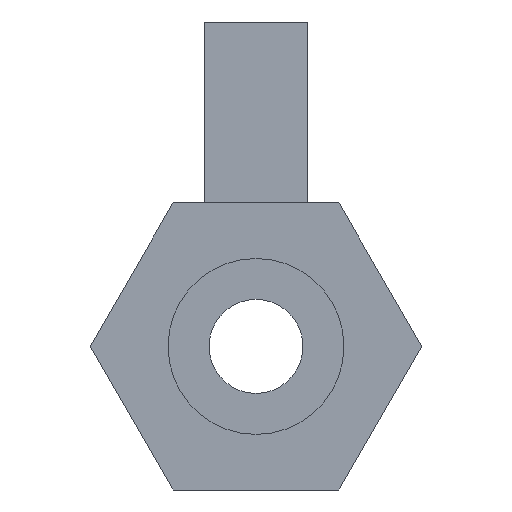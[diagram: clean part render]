
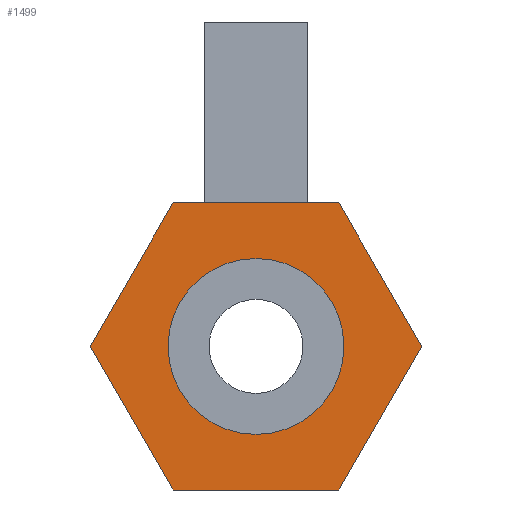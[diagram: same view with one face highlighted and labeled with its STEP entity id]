
A CAD part, left-side view. The second image highlights one B-rep face of the part: STEP entity #1499.
In plain terms, the highlighted planar face has unit normal (-1, 0, 0).
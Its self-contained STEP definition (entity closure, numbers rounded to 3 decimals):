
#523 = PLANE('',#524);
#524 = AXIS2_PLACEMENT_3D('',#525,#526,#527);
#525 = CARTESIAN_POINT('',(0.,0.,0.474));
#526 = DIRECTION('',(0.,0.,1.));
#527 = DIRECTION('',(0.,1.,0.));
#913 = CYLINDRICAL_SURFACE('',#914,0.29);
#914 = AXIS2_PLACEMENT_3D('',#915,#916,#917);
#915 = CARTESIAN_POINT('',(-1.7,0.,0.)
  );
#916 = DIRECTION('',(1.,0.,0.));
#917 = DIRECTION('',(0.,-1.,0.));
#938 = VERTEX_POINT('',#939);
#939 = CARTESIAN_POINT('',(-1.7,-0.29,0.));
#959 = EDGE_CURVE('',#938,#938,#960,.T.);
#960 = SURFACE_CURVE('',#961,(#966,#973),.PCURVE_S1.);
#961 = CIRCLE('',#962,0.29);
#962 = AXIS2_PLACEMENT_3D('',#963,#964,#965);
#963 = CARTESIAN_POINT('',(-1.7,0.,0.)
  );
#964 = DIRECTION('',(1.,0.,0.));
#965 = DIRECTION('',(0.,-1.,0.));
#966 = PCURVE('',#913,#967);
#967 = DEFINITIONAL_REPRESENTATION('',(#968),#972);
#968 = LINE('',#969,#970);
#969 = CARTESIAN_POINT('',(0.,0.));
#970 = VECTOR('',#971,1.);
#971 = DIRECTION('',(1.,0.));
#972 = ( GEOMETRIC_REPRESENTATION_CONTEXT(2) 
PARAMETRIC_REPRESENTATION_CONTEXT() REPRESENTATION_CONTEXT('2D SPACE',''
  ) );
#973 = PCURVE('',#974,#979);
#974 = PLANE('',#975);
#975 = AXIS2_PLACEMENT_3D('',#976,#977,#978);
#976 = CARTESIAN_POINT('',(-1.7,0.,0.)
  );
#977 = DIRECTION('',(1.,0.,0.));
#978 = DIRECTION('',(0.,0.,-1.));
#979 = DEFINITIONAL_REPRESENTATION('',(#980),#984);
#980 = CIRCLE('',#981,0.29);
#981 = AXIS2_PLACEMENT_2D('',#982,#983);
#982 = CARTESIAN_POINT('',(0.,0.));
#983 = DIRECTION('',(0.,-1.));
#984 = ( GEOMETRIC_REPRESENTATION_CONTEXT(2) 
PARAMETRIC_REPRESENTATION_CONTEXT() REPRESENTATION_CONTEXT('2D SPACE',''
  ) );
#1046 = EDGE_CURVE('',#1047,#1049,#1051,.T.);
#1047 = VERTEX_POINT('',#1048);
#1048 = CARTESIAN_POINT('',(-1.7,-0.273,-0.474));
#1049 = VERTEX_POINT('',#1050);
#1050 = CARTESIAN_POINT('',(-1.7,0.273,-0.474));
#1051 = SURFACE_CURVE('',#1052,(#1056,#1068),.PCURVE_S1.);
#1052 = LINE('',#1053,#1054);
#1053 = CARTESIAN_POINT('',(-1.7,0.273,-0.474));
#1054 = VECTOR('',#1055,1.);
#1055 = DIRECTION('',(0.,1.,0.));
#1056 = PCURVE('',#1057,#1062);
#1057 = PLANE('',#1058);
#1058 = AXIS2_PLACEMENT_3D('',#1059,#1060,#1061);
#1059 = CARTESIAN_POINT('',(0.,0.,-0.474));
#1060 = DIRECTION('',(0.,0.,-1.));
#1061 = DIRECTION('',(0.,-1.,0.));
#1062 = DEFINITIONAL_REPRESENTATION('',(#1063),#1067);
#1063 = LINE('',#1064,#1065);
#1064 = CARTESIAN_POINT('',(-0.273,1.7));
#1065 = VECTOR('',#1066,1.);
#1066 = DIRECTION('',(-1.,-0.));
#1067 = ( GEOMETRIC_REPRESENTATION_CONTEXT(2) 
PARAMETRIC_REPRESENTATION_CONTEXT() REPRESENTATION_CONTEXT('2D SPACE',''
  ) );
#1068 = PCURVE('',#974,#1069);
#1069 = DEFINITIONAL_REPRESENTATION('',(#1070),#1074);
#1070 = LINE('',#1071,#1072);
#1071 = CARTESIAN_POINT('',(0.474,0.273));
#1072 = VECTOR('',#1073,1.);
#1073 = DIRECTION('',(0.,1.));
#1074 = ( GEOMETRIC_REPRESENTATION_CONTEXT(2) 
PARAMETRIC_REPRESENTATION_CONTEXT() REPRESENTATION_CONTEXT('2D SPACE',''
  ) );
#1092 = PLANE('',#1093);
#1093 = AXIS2_PLACEMENT_3D('',#1094,#1095,#1096);
#1094 = CARTESIAN_POINT('',(0.,0.41,-0.237));
#1095 = DIRECTION('',(0.,0.866,-0.5));
#1096 = DIRECTION('',(0.,-0.5,-0.866));
#1141 = PLANE('',#1142);
#1142 = AXIS2_PLACEMENT_3D('',#1143,#1144,#1145);
#1143 = CARTESIAN_POINT('',(0.,-0.41,-0.237));
#1144 = DIRECTION('',(0.,-0.866,-0.5));
#1145 = DIRECTION('',(0.,-0.5,0.866));
#1156 = EDGE_CURVE('',#1049,#1157,#1159,.T.);
#1157 = VERTEX_POINT('',#1158);
#1158 = CARTESIAN_POINT('',(-1.7,0.547,0.));
#1159 = SURFACE_CURVE('',#1160,(#1164,#1171),.PCURVE_S1.);
#1160 = LINE('',#1161,#1162);
#1161 = CARTESIAN_POINT('',(-1.7,0.547,0.));
#1162 = VECTOR('',#1163,1.);
#1163 = DIRECTION('',(0.,0.5,0.866));
#1164 = PCURVE('',#1092,#1165);
#1165 = DEFINITIONAL_REPRESENTATION('',(#1166),#1170);
#1166 = LINE('',#1167,#1168);
#1167 = CARTESIAN_POINT('',(-0.273,1.7));
#1168 = VECTOR('',#1169,1.);
#1169 = DIRECTION('',(-1.,0.));
#1170 = ( GEOMETRIC_REPRESENTATION_CONTEXT(2) 
PARAMETRIC_REPRESENTATION_CONTEXT() REPRESENTATION_CONTEXT('2D SPACE',''
  ) );
#1171 = PCURVE('',#974,#1172);
#1172 = DEFINITIONAL_REPRESENTATION('',(#1173),#1177);
#1173 = LINE('',#1174,#1175);
#1174 = CARTESIAN_POINT('',(0.,0.547));
#1175 = VECTOR('',#1176,1.);
#1176 = DIRECTION('',(-0.866,0.5));
#1177 = ( GEOMETRIC_REPRESENTATION_CONTEXT(2) 
PARAMETRIC_REPRESENTATION_CONTEXT() REPRESENTATION_CONTEXT('2D SPACE',''
  ) );
#1195 = PLANE('',#1196);
#1196 = AXIS2_PLACEMENT_3D('',#1197,#1198,#1199);
#1197 = CARTESIAN_POINT('',(0.,0.41,0.237));
#1198 = DIRECTION('',(0.,0.866,0.5));
#1199 = DIRECTION('',(0.,0.5,-0.866));
#1232 = EDGE_CURVE('',#1157,#1233,#1235,.T.);
#1233 = VERTEX_POINT('',#1234);
#1234 = CARTESIAN_POINT('',(-1.7,0.273,0.474));
#1235 = SURFACE_CURVE('',#1236,(#1240,#1247),.PCURVE_S1.);
#1236 = LINE('',#1237,#1238);
#1237 = CARTESIAN_POINT('',(-1.7,0.273,0.474));
#1238 = VECTOR('',#1239,1.);
#1239 = DIRECTION('',(0.,-0.5,0.866));
#1240 = PCURVE('',#1195,#1241);
#1241 = DEFINITIONAL_REPRESENTATION('',(#1242),#1246);
#1242 = LINE('',#1243,#1244);
#1243 = CARTESIAN_POINT('',(-0.273,1.7));
#1244 = VECTOR('',#1245,1.);
#1245 = DIRECTION('',(-1.,0.));
#1246 = ( GEOMETRIC_REPRESENTATION_CONTEXT(2) 
PARAMETRIC_REPRESENTATION_CONTEXT() REPRESENTATION_CONTEXT('2D SPACE',''
  ) );
#1247 = PCURVE('',#974,#1248);
#1248 = DEFINITIONAL_REPRESENTATION('',(#1249),#1253);
#1249 = LINE('',#1250,#1251);
#1250 = CARTESIAN_POINT('',(-0.474,0.273));
#1251 = VECTOR('',#1252,1.);
#1252 = DIRECTION('',(-0.866,-0.5));
#1253 = ( GEOMETRIC_REPRESENTATION_CONTEXT(2) 
PARAMETRIC_REPRESENTATION_CONTEXT() REPRESENTATION_CONTEXT('2D SPACE',''
  ) );
#1309 = EDGE_CURVE('',#1233,#1310,#1312,.T.);
#1310 = VERTEX_POINT('',#1311);
#1311 = CARTESIAN_POINT('',(-1.7,-0.273,0.474));
#1312 = SURFACE_CURVE('',#1313,(#1317,#1324),.PCURVE_S1.);
#1313 = LINE('',#1314,#1315);
#1314 = CARTESIAN_POINT('',(-1.7,-0.273,0.474));
#1315 = VECTOR('',#1316,1.);
#1316 = DIRECTION('',(0.,-1.,0.));
#1317 = PCURVE('',#523,#1318);
#1318 = DEFINITIONAL_REPRESENTATION('',(#1319),#1323);
#1319 = LINE('',#1320,#1321);
#1320 = CARTESIAN_POINT('',(-0.273,1.7));
#1321 = VECTOR('',#1322,1.);
#1322 = DIRECTION('',(-1.,0.));
#1323 = ( GEOMETRIC_REPRESENTATION_CONTEXT(2) 
PARAMETRIC_REPRESENTATION_CONTEXT() REPRESENTATION_CONTEXT('2D SPACE',''
  ) );
#1324 = PCURVE('',#974,#1325);
#1325 = DEFINITIONAL_REPRESENTATION('',(#1326),#1330);
#1326 = LINE('',#1327,#1328);
#1327 = CARTESIAN_POINT('',(-0.474,-0.273));
#1328 = VECTOR('',#1329,1.);
#1329 = DIRECTION('',(0.,-1.));
#1330 = ( GEOMETRIC_REPRESENTATION_CONTEXT(2) 
PARAMETRIC_REPRESENTATION_CONTEXT() REPRESENTATION_CONTEXT('2D SPACE',''
  ) );
#1348 = PLANE('',#1349);
#1349 = AXIS2_PLACEMENT_3D('',#1350,#1351,#1352);
#1350 = CARTESIAN_POINT('',(0.,-0.41,0.237));
#1351 = DIRECTION('',(0.,-0.866,0.5));
#1352 = DIRECTION('',(0.,0.5,0.866));
#1385 = EDGE_CURVE('',#1310,#1386,#1388,.T.);
#1386 = VERTEX_POINT('',#1387);
#1387 = CARTESIAN_POINT('',(-1.7,-0.547,0.));
#1388 = SURFACE_CURVE('',#1389,(#1393,#1400),.PCURVE_S1.);
#1389 = LINE('',#1390,#1391);
#1390 = CARTESIAN_POINT('',(-1.7,-0.547,0.));
#1391 = VECTOR('',#1392,1.);
#1392 = DIRECTION('',(0.,-0.5,-0.866));
#1393 = PCURVE('',#1348,#1394);
#1394 = DEFINITIONAL_REPRESENTATION('',(#1395),#1399);
#1395 = LINE('',#1396,#1397);
#1396 = CARTESIAN_POINT('',(-0.273,1.7));
#1397 = VECTOR('',#1398,1.);
#1398 = DIRECTION('',(-1.,-0.));
#1399 = ( GEOMETRIC_REPRESENTATION_CONTEXT(2) 
PARAMETRIC_REPRESENTATION_CONTEXT() REPRESENTATION_CONTEXT('2D SPACE',''
  ) );
#1400 = PCURVE('',#974,#1401);
#1401 = DEFINITIONAL_REPRESENTATION('',(#1402),#1406);
#1402 = LINE('',#1403,#1404);
#1403 = CARTESIAN_POINT('',(0.,-0.547));
#1404 = VECTOR('',#1405,1.);
#1405 = DIRECTION('',(0.866,-0.5));
#1406 = ( GEOMETRIC_REPRESENTATION_CONTEXT(2) 
PARAMETRIC_REPRESENTATION_CONTEXT() REPRESENTATION_CONTEXT('2D SPACE',''
  ) );
#1456 = EDGE_CURVE('',#1386,#1047,#1457,.T.);
#1457 = SURFACE_CURVE('',#1458,(#1462,#1469),.PCURVE_S1.);
#1458 = LINE('',#1459,#1460);
#1459 = CARTESIAN_POINT('',(-1.7,-0.273,-0.474));
#1460 = VECTOR('',#1461,1.);
#1461 = DIRECTION('',(0.,0.5,-0.866));
#1462 = PCURVE('',#1141,#1463);
#1463 = DEFINITIONAL_REPRESENTATION('',(#1464),#1468);
#1464 = LINE('',#1465,#1466);
#1465 = CARTESIAN_POINT('',(-0.273,1.7));
#1466 = VECTOR('',#1467,1.);
#1467 = DIRECTION('',(-1.,-0.));
#1468 = ( GEOMETRIC_REPRESENTATION_CONTEXT(2) 
PARAMETRIC_REPRESENTATION_CONTEXT() REPRESENTATION_CONTEXT('2D SPACE',''
  ) );
#1469 = PCURVE('',#974,#1470);
#1470 = DEFINITIONAL_REPRESENTATION('',(#1471),#1475);
#1471 = LINE('',#1472,#1473);
#1472 = CARTESIAN_POINT('',(0.474,-0.273));
#1473 = VECTOR('',#1474,1.);
#1474 = DIRECTION('',(0.866,0.5));
#1475 = ( GEOMETRIC_REPRESENTATION_CONTEXT(2) 
PARAMETRIC_REPRESENTATION_CONTEXT() REPRESENTATION_CONTEXT('2D SPACE',''
  ) );
#1499 = ADVANCED_FACE('',(#1500,#1503),#974,.F.);
#1500 = FACE_BOUND('',#1501,.T.);
#1501 = EDGE_LOOP('',(#1502));
#1502 = ORIENTED_EDGE('',*,*,#959,.T.);
#1503 = FACE_BOUND('',#1504,.T.);
#1504 = EDGE_LOOP('',(#1505,#1506,#1507,#1508,#1509,#1510));
#1505 = ORIENTED_EDGE('',*,*,#1046,.F.);
#1506 = ORIENTED_EDGE('',*,*,#1456,.F.);
#1507 = ORIENTED_EDGE('',*,*,#1385,.F.);
#1508 = ORIENTED_EDGE('',*,*,#1309,.F.);
#1509 = ORIENTED_EDGE('',*,*,#1232,.F.);
#1510 = ORIENTED_EDGE('',*,*,#1156,.F.);
